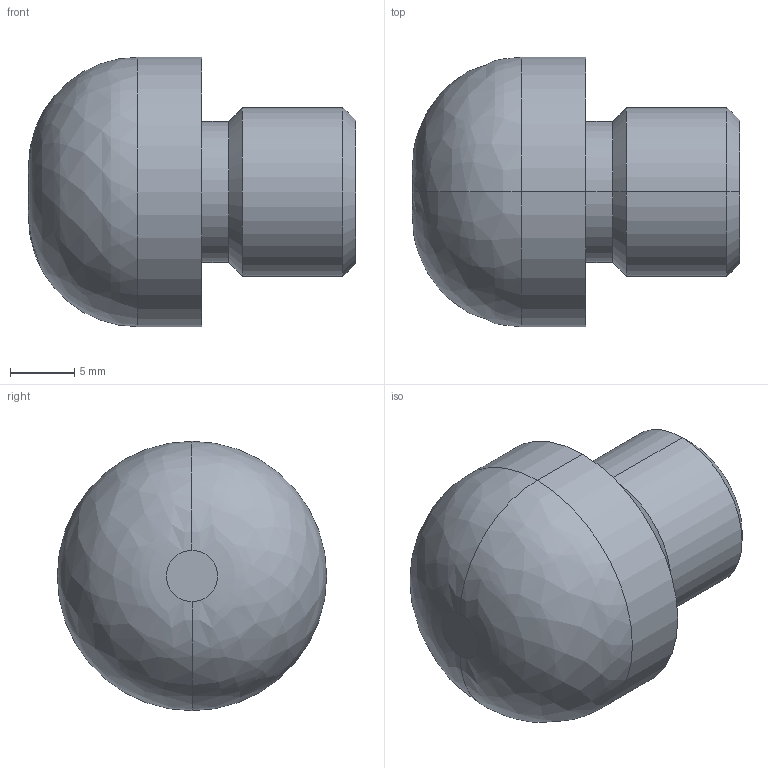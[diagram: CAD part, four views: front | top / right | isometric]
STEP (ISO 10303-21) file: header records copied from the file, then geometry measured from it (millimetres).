
FILE_DESCRIPTION(/* description */ (''),/* implementation_level */ '2;1');
FILE_NAME(/* name */ 'TTF02.stp',/* time_stamp */ '2022-11-21T16:12:16+08:00',/* author */ (''),/* organization */ (''),/* preprocessor_version */ 'ST-DEVELOPER v16.7',/* originating_system */ 'SIEMENS PLM Software NX 12.0',/* authorisation */ '');
FILE_SCHEMA (('AP203_CONFIGURATION_CONTROLLED_3D_DESIGN_OF_MECHANICAL_PARTS_AND_ASSEMBLIES_MIM_LF { 1 0 10303 403 2 1 2}'));
Length unit declared in the file: millimetre
Products named in the file (1): VCF02_step
Bounding box: 25.5 x 21 x 21 mm (x, y, z)
Volume: 5341.7 mm3; surface area: 1821.2 mm2
Topology: 1 solids, 1 shells, 15 faces, 28 edges, 16 vertices
Faces by surface type: cylinder 6, cone 4, plane 3, bspline 2
Entity records: 492 total; most frequent: CARTESIAN_POINT 90, DIRECTION 74, ORIENTED_EDGE 56, AXIS2_PLACEMENT_3D 32, EDGE_CURVE 28, CIRCLE 18, EDGE_LOOP 16, VERTEX_POINT 16
